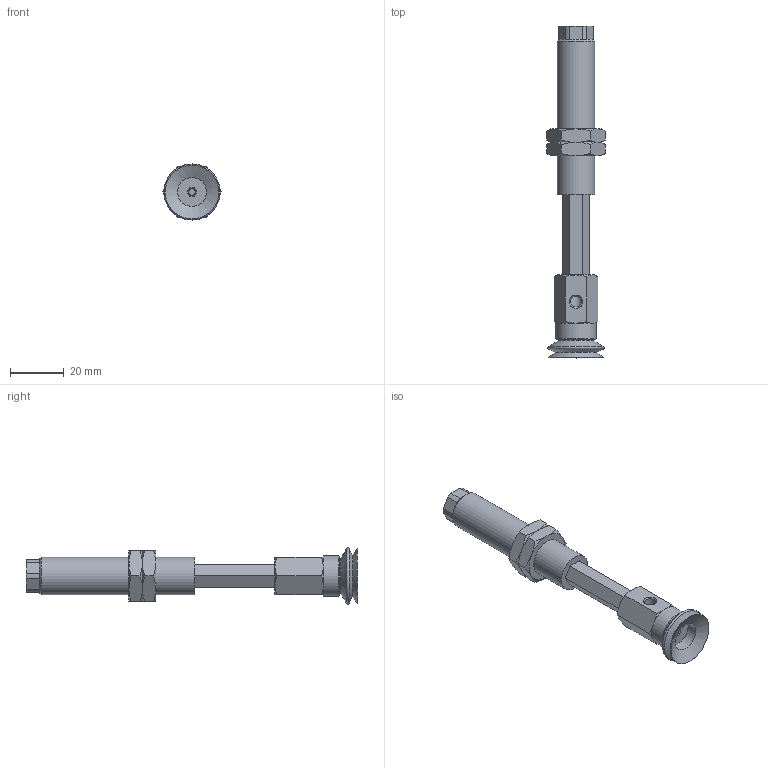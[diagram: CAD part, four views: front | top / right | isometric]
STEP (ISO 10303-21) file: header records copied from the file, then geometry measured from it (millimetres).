
FILE_DESCRIPTION(('STEP AP203'),'1');
FILE_NAME('.stp','2025-04-24T07:01:14',(' '),(' '),'Spatial InterOp 3D',' ',' ');
FILE_SCHEMA(('CONFIG_CONTROL_DESIGN'));
Length unit declared in the file: millimetre
Products named in the file (7): BNABPJYH-20-30-※; Adapter-20-NAPJ; CONNECTOR_H-20-30; NAPJH-20-30-NUT; NAPJTH-20-30-FBODY; NAPJTH-20-30-MBODY; BPJG-20-※
Assembly tree (7 placements, depth 2):
  BNABPJYH-20-30-※
    Adapter-20-NAPJ
    CONNECTOR_H-20-30
    NAPJH-20-30-NUT  x2
    NAPJTH-20-30-FBODY
    NAPJTH-20-30-MBODY
    BPJG-20-※
Bounding box: 21.94 x 124 x 21 mm (x, y, z)
Volume: 17271.6 mm3; surface area: 13660.7 mm2
Topology: 7 solids, 7 shells, 153 faces, 340 edges, 209 vertices
Faces by surface type: plane 72, cone 54, cylinder 20, torus 7
Full cylindrical faces by diameter (mm): 2.5 x1, 3 x1, 4.134 x3, 4.6 x1, 5 x2, 10.8 x1, 11 x1, 13.188 x2, 14 x1, 15 x1
Entity records: 3982 total; most frequent: CARTESIAN_POINT 928, DIRECTION 562, ORIENTED_EDGE 500, EDGE_CURVE 250, AXIS2_PLACEMENT_3D 226, EDGE_LOOP 184, VERTEX_POINT 174, FACE_OUTER_BOUND 150
